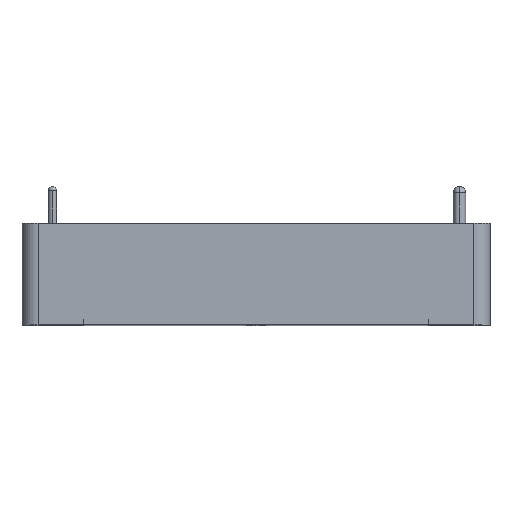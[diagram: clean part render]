
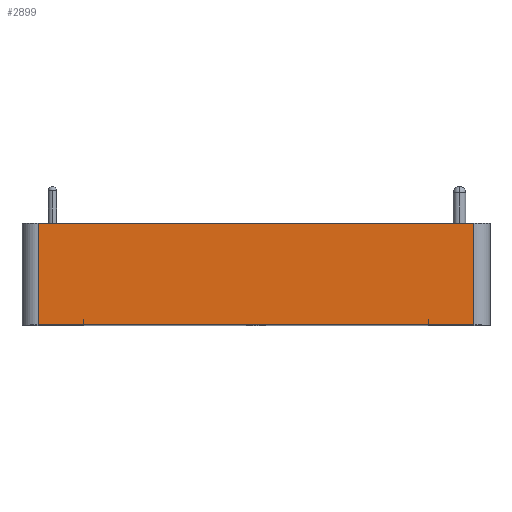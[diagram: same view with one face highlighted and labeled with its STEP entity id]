
A CAD part, top view. The second image highlights one B-rep face of the part: STEP entity #2899.
In plain terms, the highlighted planar face has unit normal (0, 0, 1).
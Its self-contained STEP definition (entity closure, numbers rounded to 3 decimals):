
#71 = CARTESIAN_POINT ( 'NONE',  ( -21.555, 0.7, 18.4 ) ) ;
#153 = DIRECTION ( 'NONE',  ( -1., 0., 0. ) ) ;
#185 = ORIENTED_EDGE ( 'NONE', *, *, #1604, .T. ) ;
#189 = VERTEX_POINT ( 'NONE', #1468 ) ;
#192 = CARTESIAN_POINT ( 'NONE',  ( 21.555, 0.7, 18.4 ) ) ;
#267 = ORIENTED_EDGE ( 'NONE', *, *, #2583, .T. ) ;
#275 = VECTOR ( 'NONE', #3782, 1000. ) ;
#293 = CARTESIAN_POINT ( 'NONE',  ( -21.555, 0., 18.4 ) ) ;
#339 = CARTESIAN_POINT ( 'NONE',  ( -21.58, 1., 18.4 ) ) ;
#372 = DIRECTION ( 'NONE',  ( 0., 1., 0. ) ) ;
#411 = EDGE_CURVE ( 'NONE', #1819, #1704, #1964, .T. ) ;
#417 = EDGE_LOOP ( 'NONE', ( #2260, #1496, #1598, #527, #267, #1562, #3530, #3656, #185, #3358, #1564, #553 ) ) ;
#519 = CARTESIAN_POINT ( 'NONE',  ( 21.58, 0., 18.4 ) ) ;
#527 = ORIENTED_EDGE ( 'NONE', *, *, #3142, .T. ) ;
#530 = EDGE_CURVE ( 'NONE', #1545, #1527, #2787, .T. ) ;
#553 = ORIENTED_EDGE ( 'NONE', *, *, #411, .F. ) ;
#587 = DIRECTION ( 'NONE',  ( -1., 0., 0. ) ) ;
#603 = DIRECTION ( 'NONE',  ( 1., 0., 0. ) ) ;
#645 = VECTOR ( 'NONE', #587, 1000. ) ;
#666 = DIRECTION ( 'NONE',  ( 0., -1., 0. ) ) ;
#669 = CARTESIAN_POINT ( 'NONE',  ( -21.555, 0., 18.4 ) ) ;
#688 = VECTOR ( 'NONE', #603, 1000. ) ;
#717 = CARTESIAN_POINT ( 'NONE',  ( -27.2, 0.7, 18.4 ) ) ;
#774 = DIRECTION ( 'NONE',  ( 0., 0., -1. ) ) ;
#798 = PLANE ( 'NONE',  #3235 ) ;
#836 = LINE ( 'NONE', #3224, #688 ) ;
#839 = EDGE_CURVE ( 'NONE', #4120, #3022, #1998, .T. ) ;
#891 = LINE ( 'NONE', #1921, #3052 ) ;
#971 = CARTESIAN_POINT ( 'NONE',  ( -27.2, 0., 18.4 ) ) ;
#1101 = FACE_OUTER_BOUND ( 'NONE', #417, .T. ) ;
#1268 = CARTESIAN_POINT ( 'NONE',  ( 21.555, 0., 18.4 ) ) ;
#1299 = CARTESIAN_POINT ( 'NONE',  ( -27.2, 12.7, 18.4 ) ) ;
#1331 = EDGE_CURVE ( 'NONE', #2448, #3546, #891, .T. ) ;
#1350 = DIRECTION ( 'NONE',  ( 0., 1., 0. ) ) ;
#1415 = DIRECTION ( 'NONE',  ( -1., 0., 0. ) ) ;
#1429 = LINE ( 'NONE', #2733, #1871 ) ;
#1435 = EDGE_CURVE ( 'NONE', #1545, #2679, #2045, .T. ) ;
#1463 = CARTESIAN_POINT ( 'NONE',  ( -27.2, 1., 18.4 ) ) ;
#1468 = CARTESIAN_POINT ( 'NONE',  ( 21.58, 0.7, 18.4 ) ) ;
#1496 = ORIENTED_EDGE ( 'NONE', *, *, #1435, .F. ) ;
#1527 = VERTEX_POINT ( 'NONE', #3380 ) ;
#1545 = VERTEX_POINT ( 'NONE', #669 ) ;
#1562 = ORIENTED_EDGE ( 'NONE', *, *, #3568, .T. ) ;
#1564 = ORIENTED_EDGE ( 'NONE', *, *, #3653, .F. ) ;
#1598 = ORIENTED_EDGE ( 'NONE', *, *, #530, .T. ) ;
#1604 = EDGE_CURVE ( 'NONE', #2842, #3546, #1846, .T. ) ;
#1681 = DIRECTION ( 'NONE',  ( 0., 1., 0. ) ) ;
#1704 = VERTEX_POINT ( 'NONE', #1821 ) ;
#1775 = VECTOR ( 'NONE', #3074, 1000. ) ;
#1819 = VERTEX_POINT ( 'NONE', #2201 ) ;
#1821 = CARTESIAN_POINT ( 'NONE',  ( -21.58, 0., 18.4 ) ) ;
#1846 = LINE ( 'NONE', #2481, #3615 ) ;
#1871 = VECTOR ( 'NONE', #666, 1000. ) ;
#1921 = CARTESIAN_POINT ( 'NONE',  ( -27.2, 0., 18.4 ) ) ;
#1964 = LINE ( 'NONE', #339, #2597 ) ;
#1998 = LINE ( 'NONE', #971, #645 ) ;
#2045 = LINE ( 'NONE', #293, #2356 ) ;
#2072 = CARTESIAN_POINT ( 'NONE',  ( -27.2, 0., 18.4 ) ) ;
#2167 = EDGE_CURVE ( 'NONE', #1819, #2679, #836, .T. ) ;
#2201 = CARTESIAN_POINT ( 'NONE',  ( -21.58, 0.7, 18.4 ) ) ;
#2223 = VECTOR ( 'NONE', #1681, 1000. ) ;
#2260 = ORIENTED_EDGE ( 'NONE', *, *, #2167, .T. ) ;
#2340 = DIRECTION ( 'NONE',  ( 0., -1., 0. ) ) ;
#2356 = VECTOR ( 'NONE', #1350, 1000. ) ;
#2437 = CARTESIAN_POINT ( 'NONE',  ( 27.2, 0., 18.4 ) ) ;
#2448 = VERTEX_POINT ( 'NONE', #2072 ) ;
#2481 = CARTESIAN_POINT ( 'NONE',  ( -27.2, 12.7, 18.4 ) ) ;
#2496 = VECTOR ( 'NONE', #372, 1000. ) ;
#2583 = EDGE_CURVE ( 'NONE', #3708, #189, #3720, .T. ) ;
#2597 = VECTOR ( 'NONE', #2340, 1000. ) ;
#2679 = VERTEX_POINT ( 'NONE', #71 ) ;
#2733 = CARTESIAN_POINT ( 'NONE',  ( 21.58, 1., 18.4 ) ) ;
#2787 = LINE ( 'NONE', #3755, #1775 ) ;
#2842 = VERTEX_POINT ( 'NONE', #3259 ) ;
#2899 = ADVANCED_FACE ( 'NONE', ( #1101 ), #798, .F. ) ;
#2905 = CARTESIAN_POINT ( 'NONE',  ( 27.2, 0., 18.4 ) ) ;
#3022 = VERTEX_POINT ( 'NONE', #519 ) ;
#3052 = VECTOR ( 'NONE', #3632, 1000. ) ;
#3074 = DIRECTION ( 'NONE',  ( 1., 0., 0. ) ) ;
#3075 = EDGE_CURVE ( 'NONE', #4120, #2842, #3232, .T. ) ;
#3142 = EDGE_CURVE ( 'NONE', #1527, #3708, #4303, .T. ) ;
#3224 = CARTESIAN_POINT ( 'NONE',  ( -27.2, 0.7, 18.4 ) ) ;
#3232 = LINE ( 'NONE', #2905, #2223 ) ;
#3235 = AXIS2_PLACEMENT_3D ( 'NONE', #1463, #774, #1415 ) ;
#3259 = CARTESIAN_POINT ( 'NONE',  ( 27.2, 12.7, 18.4 ) ) ;
#3358 = ORIENTED_EDGE ( 'NONE', *, *, #1331, .F. ) ;
#3380 = CARTESIAN_POINT ( 'NONE',  ( 21.555, 0., 18.4 ) ) ;
#3530 = ORIENTED_EDGE ( 'NONE', *, *, #839, .F. ) ;
#3546 = VERTEX_POINT ( 'NONE', #1299 ) ;
#3568 = EDGE_CURVE ( 'NONE', #189, #3022, #1429, .T. ) ;
#3615 = VECTOR ( 'NONE', #153, 1000. ) ;
#3632 = DIRECTION ( 'NONE',  ( 0., 1., 0. ) ) ;
#3653 = EDGE_CURVE ( 'NONE', #1704, #2448, #4378, .T. ) ;
#3656 = ORIENTED_EDGE ( 'NONE', *, *, #3075, .T. ) ;
#3708 = VERTEX_POINT ( 'NONE', #192 ) ;
#3720 = LINE ( 'NONE', #717, #275 ) ;
#3755 = CARTESIAN_POINT ( 'NONE',  ( -27.2, 0., 18.4 ) ) ;
#3782 = DIRECTION ( 'NONE',  ( 1., 0., 0. ) ) ;
#4038 = CARTESIAN_POINT ( 'NONE',  ( -27.2, 0., 18.4 ) ) ;
#4043 = VECTOR ( 'NONE', #4103, 1000. ) ;
#4103 = DIRECTION ( 'NONE',  ( -1., 0., 0. ) ) ;
#4120 = VERTEX_POINT ( 'NONE', #2437 ) ;
#4303 = LINE ( 'NONE', #1268, #2496 ) ;
#4378 = LINE ( 'NONE', #4038, #4043 ) ;
